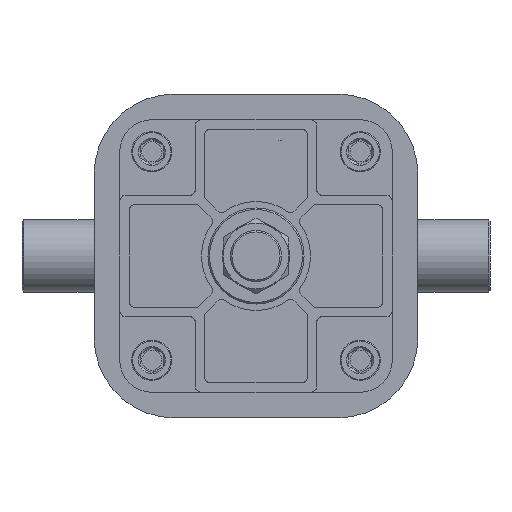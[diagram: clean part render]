
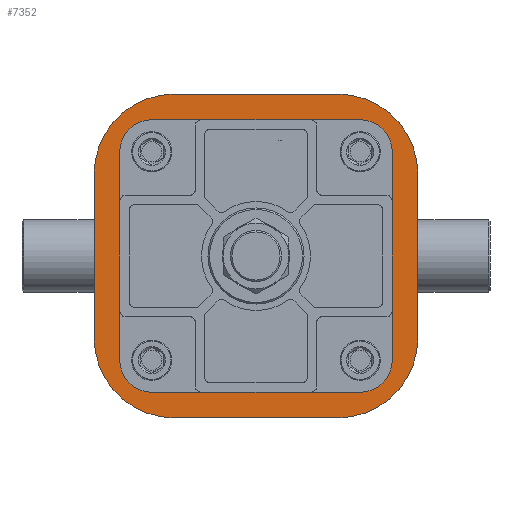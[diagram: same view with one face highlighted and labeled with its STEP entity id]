
A CAD part, front view. The second image highlights one B-rep face of the part: STEP entity #7352.
In plain terms, the highlighted planar face has unit normal (0, -1, 0).
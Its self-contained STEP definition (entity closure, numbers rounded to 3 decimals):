
#602=LINE('',#10938,#1008);
#606=LINE('',#10950,#1012);
#611=LINE('',#10960,#1017);
#615=LINE('',#11001,#1021);
#1008=VECTOR('',#9361,1000.);
#1012=VECTOR('',#9373,1000.);
#1017=VECTOR('',#9380,1000.);
#1021=VECTOR('',#9430,1000.);
#2285=ORIENTED_EDGE('',*,*,#3119,.F.);
#2286=ORIENTED_EDGE('',*,*,#3117,.F.);
#2287=ORIENTED_EDGE('',*,*,#3115,.F.);
#2288=ORIENTED_EDGE('',*,*,#3113,.F.);
#2289=ORIENTED_EDGE('',*,*,#3112,.T.);
#2290=ORIENTED_EDGE('',*,*,#3110,.F.);
#2291=ORIENTED_EDGE('',*,*,#3127,.T.);
#2292=ORIENTED_EDGE('',*,*,#3128,.F.);
#2293=ORIENTED_EDGE('',*,*,#3122,.T.);
#2294=ORIENTED_EDGE('',*,*,#3105,.F.);
#2295=ORIENTED_EDGE('',*,*,#3103,.T.);
#2296=ORIENTED_EDGE('',*,*,#3099,.F.);
#2297=ORIENTED_EDGE('',*,*,#3097,.T.);
#3097=EDGE_CURVE('',#3643,#3642,#3972,.F.);
#3099=EDGE_CURVE('',#3643,#3644,#602,.T.);
#3103=EDGE_CURVE('',#3647,#3644,#3974,.F.);
#3105=EDGE_CURVE('',#3647,#3648,#606,.T.);
#3110=EDGE_CURVE('',#3651,#3642,#611,.T.);
#3112=EDGE_CURVE('',#3653,#3653,#3976,.T.);
#3113=EDGE_CURVE('',#3654,#3654,#3977,.F.);
#3115=EDGE_CURVE('',#3656,#3656,#3979,.F.);
#3117=EDGE_CURVE('',#3658,#3658,#3981,.F.);
#3119=EDGE_CURVE('',#3660,#3660,#3983,.F.);
#3122=EDGE_CURVE('',#3663,#3648,#3986,.F.);
#3127=EDGE_CURVE('',#3651,#3665,#3988,.F.);
#3128=EDGE_CURVE('',#3663,#3665,#615,.T.);
#3642=VERTEX_POINT('',#10933);
#3643=VERTEX_POINT('',#10935);
#3644=VERTEX_POINT('',#10939);
#3647=VERTEX_POINT('',#10947);
#3648=VERTEX_POINT('',#10951);
#3651=VERTEX_POINT('',#10959);
#3653=VERTEX_POINT('',#10965);
#3654=VERTEX_POINT('',#10968);
#3656=VERTEX_POINT('',#10973);
#3658=VERTEX_POINT('',#10978);
#3660=VERTEX_POINT('',#10983);
#3663=VERTEX_POINT('',#10990);
#3665=VERTEX_POINT('',#10998);
#3972=CIRCLE('',#7920,50.);
#3974=CIRCLE('',#7924,50.);
#3976=CIRCLE('',#7929,80.5);
#3977=CIRCLE('',#7931,6.25);
#3979=CIRCLE('',#7934,6.25);
#3981=CIRCLE('',#7937,6.25);
#3983=CIRCLE('',#7940,6.25);
#3986=CIRCLE('',#7944,50.);
#3988=CIRCLE('',#7948,50.);
#4356=EDGE_LOOP('',(#2285));
#4357=EDGE_LOOP('',(#2286));
#4358=EDGE_LOOP('',(#2287));
#4359=EDGE_LOOP('',(#2288));
#4360=EDGE_LOOP('',(#2289));
#4361=EDGE_LOOP('',(#2290,#2291,#2292,#2293,#2294,#2295,#2296,#2297));
#4780=FACE_BOUND('',#4356,.T.);
#4781=FACE_BOUND('',#4357,.T.);
#4782=FACE_BOUND('',#4358,.T.);
#4783=FACE_BOUND('',#4359,.T.);
#4784=FACE_BOUND('',#4360,.T.);
#4785=FACE_BOUND('',#4361,.T.);
#4997=PLANE('',#7949);
#7352=ADVANCED_FACE('',(#4780,#4781,#4782,#4783,#4784,#4785),#4997,.F.);
#7920=AXIS2_PLACEMENT_3D('',#10934,#9356,#9357);
#7924=AXIS2_PLACEMENT_3D('',#10946,#9368,#9369);
#7929=AXIS2_PLACEMENT_3D('',#10964,#9385,#9386);
#7931=AXIS2_PLACEMENT_3D('',#10967,#9389,#9390);
#7934=AXIS2_PLACEMENT_3D('',#10972,#9395,#9396);
#7937=AXIS2_PLACEMENT_3D('',#10977,#9401,#9402);
#7940=AXIS2_PLACEMENT_3D('',#10982,#9407,#9408);
#7944=AXIS2_PLACEMENT_3D('',#10989,#9415,#9416);
#7948=AXIS2_PLACEMENT_3D('',#10999,#9426,#9427);
#7949=AXIS2_PLACEMENT_3D('',#11000,#9428,#9429);
#9356=DIRECTION('',(0.,1.,0.));
#9357=DIRECTION('',(0.,0.,1.));
#9361=DIRECTION('',(0.,0.,-1.));
#9368=DIRECTION('',(0.,1.,0.));
#9369=DIRECTION('',(0.,0.,1.));
#9373=DIRECTION('',(-1.,0.,0.));
#9380=DIRECTION('',(1.,0.,0.));
#9385=DIRECTION('',(0.,1.,0.));
#9386=DIRECTION('',(0.,0.,1.));
#9389=DIRECTION('',(0.,1.,0.));
#9390=DIRECTION('',(0.,0.,1.));
#9395=DIRECTION('',(0.,1.,0.));
#9396=DIRECTION('',(0.,0.,1.));
#9401=DIRECTION('',(0.,1.,0.));
#9402=DIRECTION('',(0.,0.,1.));
#9407=DIRECTION('',(0.,1.,0.));
#9408=DIRECTION('',(0.,0.,1.));
#9415=DIRECTION('',(0.,1.,0.));
#9416=DIRECTION('',(0.,0.,1.));
#9426=DIRECTION('',(0.,1.,0.));
#9427=DIRECTION('',(0.,0.,1.));
#9428=DIRECTION('',(0.,1.,0.));
#9429=DIRECTION('',(0.,0.,1.));
#9430=DIRECTION('',(0.,0.,1.));
#10933=CARTESIAN_POINT('',(51.,-25.,101.));
#10934=CARTESIAN_POINT('',(51.,-25.,51.));
#10935=CARTESIAN_POINT('',(101.,-25.,51.));
#10938=CARTESIAN_POINT('',(101.,-25.,40.5));
#10939=CARTESIAN_POINT('',(101.,-25.,-51.));
#10946=CARTESIAN_POINT('',(51.,-25.,-51.));
#10947=CARTESIAN_POINT('',(51.,-25.,-101.));
#10950=CARTESIAN_POINT('',(45.,-25.,-101.));
#10951=CARTESIAN_POINT('',(-51.,-25.,-101.));
#10959=CARTESIAN_POINT('',(-51.,-25.,101.));
#10960=CARTESIAN_POINT('',(-45.,-25.,101.));
#10964=CARTESIAN_POINT('',(0.,-25.,0.));
#10965=CARTESIAN_POINT('',(0.,-25.,80.5));
#10967=CARTESIAN_POINT('',(65.,-25.,65.));
#10968=CARTESIAN_POINT('',(65.,-25.,71.25));
#10972=CARTESIAN_POINT('',(-65.,-25.,65.));
#10973=CARTESIAN_POINT('',(-65.,-25.,71.25));
#10977=CARTESIAN_POINT('',(-65.,-25.,-65.));
#10978=CARTESIAN_POINT('',(-65.,-25.,-58.75));
#10982=CARTESIAN_POINT('',(65.,-25.,-65.));
#10983=CARTESIAN_POINT('',(65.,-25.,-58.75));
#10989=CARTESIAN_POINT('',(-51.,-25.,-51.));
#10990=CARTESIAN_POINT('',(-101.,-25.,-51.));
#10998=CARTESIAN_POINT('',(-101.,-25.,51.));
#10999=CARTESIAN_POINT('',(-51.,-25.,51.));
#11000=CARTESIAN_POINT('',(0.,-25.,0.));
#11001=CARTESIAN_POINT('',(-101.,-25.,-40.5));
